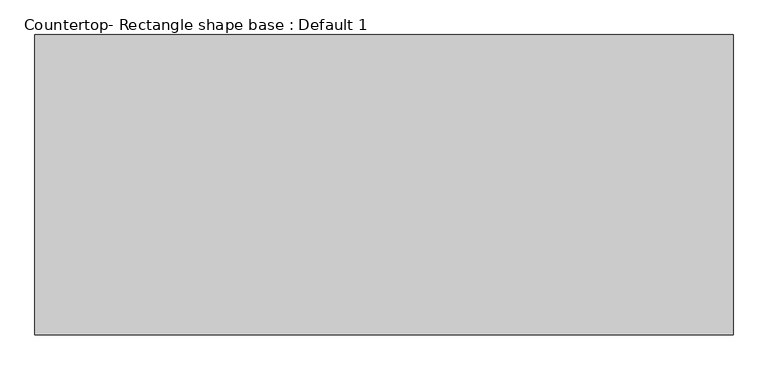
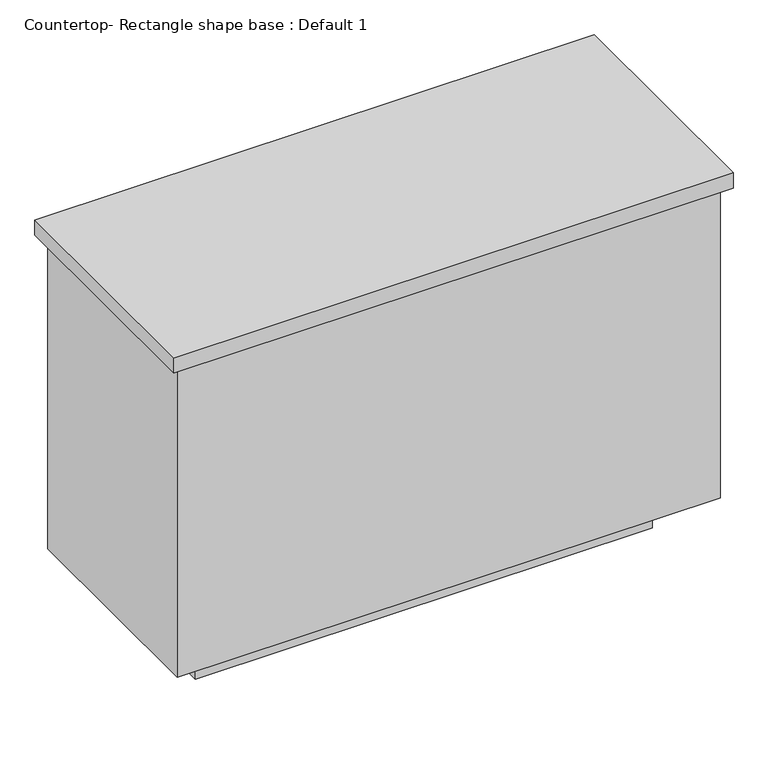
"""IFC4 building model written with IfcOpenShell, lengths in millimetres: proxy geometry, Countertop- Rectangle shape base : Default 1."""

from ifc_helpers import new_model, si_unit, frame, origin, origin_with_axes, place, context, project, spatial, polyline, outline, extrude, source, transform, mapped, element, save


def countertop_rectangle_shape_base_default_1_e193b94f(model_context):
    return source(origin(), model_context, "Body", "SweptSolid", [
        extrude(outline(polyline([(104.775, 98.425), (104.775, 663.575), (1419.225, 663.575), (1419.225, 98.425), (104.775, 98.425)])), frame((0.0, 0.0, 876.3), z_axis=(0.0, 0.0, 1.0), x_axis=(1.0, 0.0, 0.0)), (0.0, 0.0, 1.0), 38.1),
        extrude(outline(polyline([(1400.175, 644.525), (1400.175, 117.475), (123.825, 117.475), (123.825, 644.525), (1400.175, 644.525)])), frame((0.0, 0.0, 101.6), z_axis=(0.0, 0.0, 1.0), x_axis=(1.0, 0.0, 0.0)), (0.0, 0.0, 1.0), 774.7),
        extrude(outline(polyline([(1298.575, 542.925), (1298.575, 219.075), (225.425, 219.075), (225.425, 542.925), (1298.575, 542.925)])), origin_with_axes(), (0.0, 0.0, 1.0), 101.6),
    ])


if __name__ == "__main__":
    model = new_model("IFC4")
    model_context = context("Model", 3, world=origin())
    ifc_project = project(units=[si_unit("LENGTHUNIT", "METRE", prefix="MILLI")], contexts=[model_context])
    site = spatial("IfcSite", under=ifc_project)
    building = spatial("IfcBuilding", under=site)
    placement = place(None, origin())
    countertop_rectangle_shape_base_default_1_shape = countertop_rectangle_shape_base_default_1_e193b94f(model_context)
    element("IfcBuildingElementProxy", 1, Name="Countertop- Rectangle shape base : Default 1", ObjectType="Countertop- Rectangle shape base : Default 1", at=placement, inside=building, context=model_context, shape_type="MappedRepresentation", body=[
        mapped(countertop_rectangle_shape_base_default_1_shape, transform((0.0, 0.0, 0.0), x_axis=(1.0, 0.0, 0.0), y_axis=(0.0, 1.0, 0.0), z_axis=(0.0, 0.0, 1.0))),
    ])
    save(model, "model.ifc")
